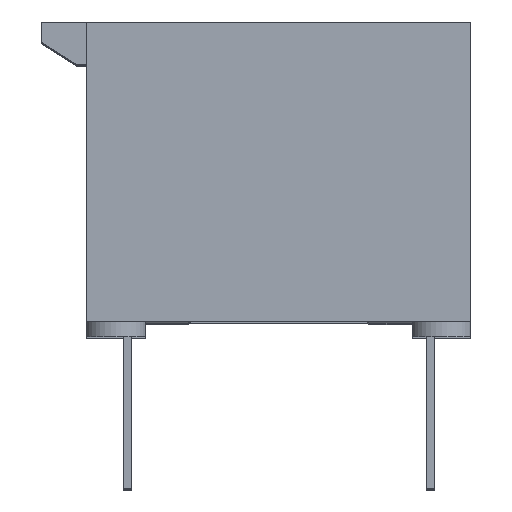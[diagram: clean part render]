
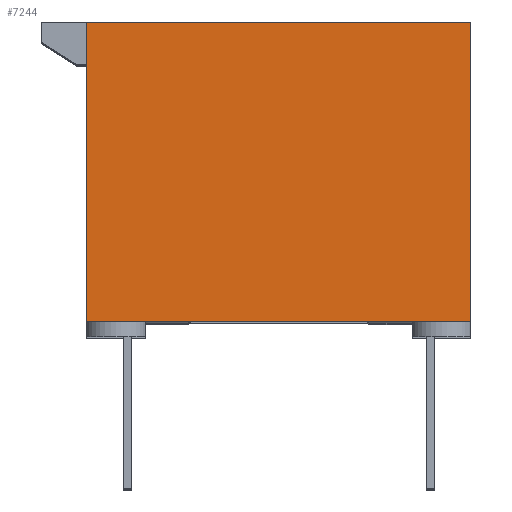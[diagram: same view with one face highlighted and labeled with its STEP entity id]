
A CAD part, top view. The second image highlights one B-rep face of the part: STEP entity #7244.
In plain terms, the highlighted planar face has unit normal (0, 0, 1).
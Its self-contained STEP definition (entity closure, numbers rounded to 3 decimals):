
#678 = DIRECTION ( 'NONE',  ( -1., 0., 0. ) ) ;
#1906 = VERTEX_POINT ( 'NONE', #25236 ) ;
#2516 = ORIENTED_EDGE ( 'NONE', *, *, #16877, .T. ) ;
#3036 = VECTOR ( 'NONE', #16000, 1000. ) ;
#3345 = LINE ( 'NONE', #12697, #13539 ) ;
#4101 = VERTEX_POINT ( 'NONE', #19957 ) ;
#4917 = EDGE_CURVE ( 'NONE', #23587, #11931, #12834, .T. ) ;
#5084 = ORIENTED_EDGE ( 'NONE', *, *, #23840, .T. ) ;
#5480 = DIRECTION ( 'NONE',  ( 0., 0., -1. ) ) ;
#5786 = CARTESIAN_POINT ( 'NONE',  ( 4.026, 0., 0. ) ) ;
#6052 = CARTESIAN_POINT ( 'NONE',  ( -4.153, 0., 0. ) ) ;
#6304 = VECTOR ( 'NONE', #23185, 1000. ) ;
#7244 = ADVANCED_FACE ( 'NONE', ( #19207 ), #21315, .F. ) ;
#8118 = VECTOR ( 'NONE', #19941, 1000. ) ;
#8353 = VERTEX_POINT ( 'NONE', #26036 ) ;
#9708 = VECTOR ( 'NONE', #15139, 1000. ) ;
#10334 = EDGE_CURVE ( 'NONE', #1906, #20007, #21911, .T. ) ;
#10725 = CARTESIAN_POINT ( 'NONE',  ( 4.763, 7.518, 0. ) ) ;
#11684 = EDGE_LOOP ( 'NONE', ( #18716, #14420, #2516, #14353, #5084, #27812 ) ) ;
#11931 = VERTEX_POINT ( 'NONE', #5786 ) ;
#12697 = CARTESIAN_POINT ( 'NONE',  ( -4.889, 0., 0. ) ) ;
#12834 = LINE ( 'NONE', #19766, #18982 ) ;
#13248 = CARTESIAN_POINT ( 'NONE',  ( -4.89, 7.518, 0. ) ) ;
#13539 = VECTOR ( 'NONE', #28855, 1000. ) ;
#13913 = AXIS2_PLACEMENT_3D ( 'NONE', #28734, #5480, #678 ) ;
#14353 = ORIENTED_EDGE ( 'NONE', *, *, #4917, .T. ) ;
#14420 = ORIENTED_EDGE ( 'NONE', *, *, #26878, .T. ) ;
#15139 = DIRECTION ( 'NONE',  ( 1., 0., 0. ) ) ;
#15802 = LINE ( 'NONE', #25030, #6304 ) ;
#16000 = DIRECTION ( 'NONE',  ( 1., 0., 0. ) ) ;
#16877 = EDGE_CURVE ( 'NONE', #8353, #23587, #19660, .T. ) ;
#17386 = CARTESIAN_POINT ( 'NONE',  ( -4.407, 0., 0. ) ) ;
#18716 = ORIENTED_EDGE ( 'NONE', *, *, #10334, .T. ) ;
#18982 = VECTOR ( 'NONE', #29011, 1000. ) ;
#19207 = FACE_OUTER_BOUND ( 'NONE', #11684, .T. ) ;
#19660 = LINE ( 'NONE', #17386, #9708 ) ;
#19766 = CARTESIAN_POINT ( 'NONE',  ( -4.407, 0., 0. ) ) ;
#19941 = DIRECTION ( 'NONE',  ( -1., 0., 0. ) ) ;
#19957 = CARTESIAN_POINT ( 'NONE',  ( 4.763, 0., 0. ) ) ;
#20007 = VERTEX_POINT ( 'NONE', #13248 ) ;
#21315 = PLANE ( 'NONE',  #13913 ) ;
#21911 = LINE ( 'NONE', #10725, #8118 ) ;
#23185 = DIRECTION ( 'NONE',  ( 0., 1., 0. ) ) ;
#23587 = VERTEX_POINT ( 'NONE', #6052 ) ;
#23840 = EDGE_CURVE ( 'NONE', #11931, #4101, #29458, .T. ) ;
#25030 = CARTESIAN_POINT ( 'NONE',  ( 4.763, 0., 0. ) ) ;
#25080 = CARTESIAN_POINT ( 'NONE',  ( -4.407, 0., 0. ) ) ;
#25236 = CARTESIAN_POINT ( 'NONE',  ( 4.763, 7.518, 0. ) ) ;
#26036 = CARTESIAN_POINT ( 'NONE',  ( -4.889, 0., 0. ) ) ;
#26354 = EDGE_CURVE ( 'NONE', #4101, #1906, #15802, .T. ) ;
#26878 = EDGE_CURVE ( 'NONE', #20007, #8353, #3345, .T. ) ;
#27812 = ORIENTED_EDGE ( 'NONE', *, *, #26354, .T. ) ;
#28734 = CARTESIAN_POINT ( 'NONE',  ( -4.889, 0., 0. ) ) ;
#28855 = DIRECTION ( 'NONE',  ( 0., -1., 0. ) ) ;
#29011 = DIRECTION ( 'NONE',  ( 1., 0., 0. ) ) ;
#29458 = LINE ( 'NONE', #25080, #3036 ) ;
